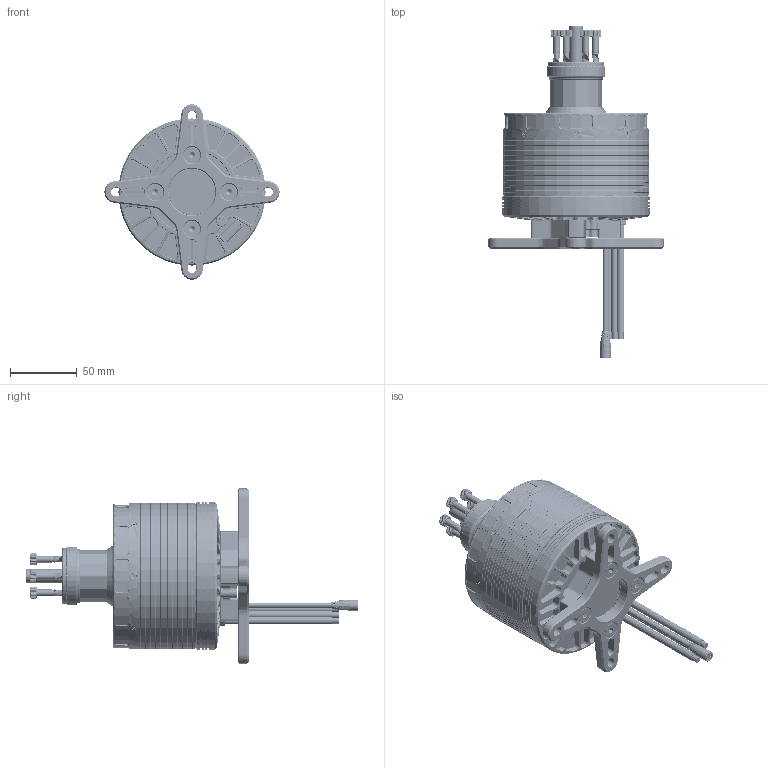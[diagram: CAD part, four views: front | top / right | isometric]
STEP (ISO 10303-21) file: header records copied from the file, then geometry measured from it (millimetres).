
FILE_DESCRIPTION (( 'STEP AP214' ), '1' );
FILE_NAME ('勤俋3D-10040.STEP', '2026-01-06T02:39:41', ( '' ), ( '' ), 'SwSTEP 2.0', 'SolidWorks 2021', '' );
FILE_SCHEMA (( 'AUTOMOTIVE_DESIGN' ));
Length unit declared in the file: millimetre
Products named in the file (1): 勤俋3D-10040
Bounding box: 130.94 x 248.1 x 131 mm (x, y, z)
Volume: 826995.9 mm3; surface area: 123241.9 mm2
Topology: 21 solids, 39 shells, 12107 faces, 32074 edges, 20083 vertices
Faces by surface type: cylinder 3853, plane 3271, bspline 2950, cone 1294, torus 691, sphere 48
Entity records: 616307 total; most frequent: CARTESIAN_POINT 224687, ORIENTED_EDGE 64084, DIRECTION 39030, EDGE_CURVE 32042, VERTEX_POINT 20083, B_SPLINE_CURVE_WITH_KNOTS 16083, AXIS2_PLACEMENT_3D 14654, EDGE_LOOP 12365
